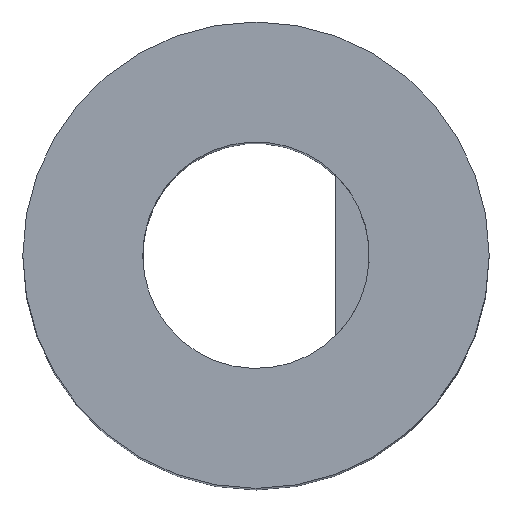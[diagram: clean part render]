
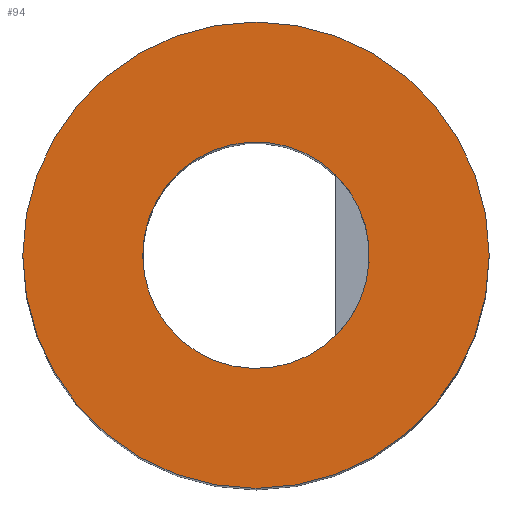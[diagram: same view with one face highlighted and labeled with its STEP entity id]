
A CAD part, top view. The second image highlights one B-rep face of the part: STEP entity #94.
In plain terms, the highlighted planar face has unit normal (0, 0, 1).
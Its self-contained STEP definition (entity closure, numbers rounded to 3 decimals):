
#28=PLANE('',#115);
#34=ORIENTED_EDGE('',*,*,#52,.T.);
#35=ORIENTED_EDGE('',*,*,#50,.F.);
#50=EDGE_CURVE('',#59,#59,#66,.T.);
#52=EDGE_CURVE('',#61,#61,#68,.T.);
#59=VERTEX_POINT('',#154);
#61=VERTEX_POINT('',#159);
#66=CIRCLE('',#113,3.5);
#68=CIRCLE('',#116,1.7);
#73=EDGE_LOOP('',(#34));
#74=EDGE_LOOP('',(#35));
#83=FACE_BOUND('',#73,.T.);
#84=FACE_BOUND('',#74,.T.);
#94=ADVANCED_FACE('',(#83,#84),#28,.F.);
#113=AXIS2_PLACEMENT_3D('',#153,#127,#128);
#115=AXIS2_PLACEMENT_3D('',#157,#131,#132);
#116=AXIS2_PLACEMENT_3D('',#158,#133,#134);
#127=DIRECTION('',(0.,0.,-1.));
#128=DIRECTION('',(1.,0.,0.));
#131=DIRECTION('',(0.,0.,-1.));
#132=DIRECTION('',(-1.,0.,0.));
#133=DIRECTION('',(0.,0.,-1.));
#134=DIRECTION('',(-1.,0.,0.));
#153=CARTESIAN_POINT('',(0.,0.,10.));
#154=CARTESIAN_POINT('',(3.5,0.,10.));
#157=CARTESIAN_POINT('',(0.,0.,10.));
#158=CARTESIAN_POINT('',(0.,0.,10.));
#159=CARTESIAN_POINT('',(-1.7,0.,10.));
